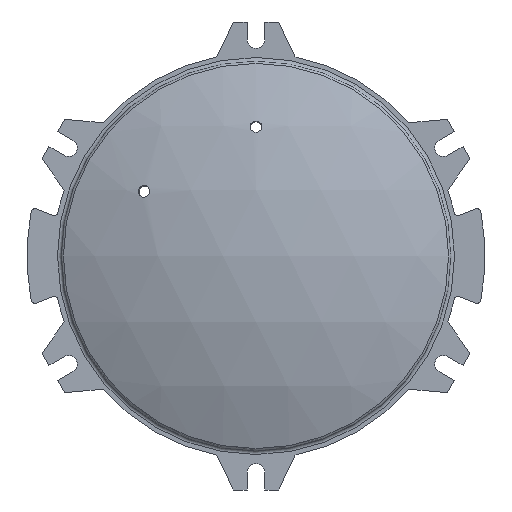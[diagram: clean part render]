
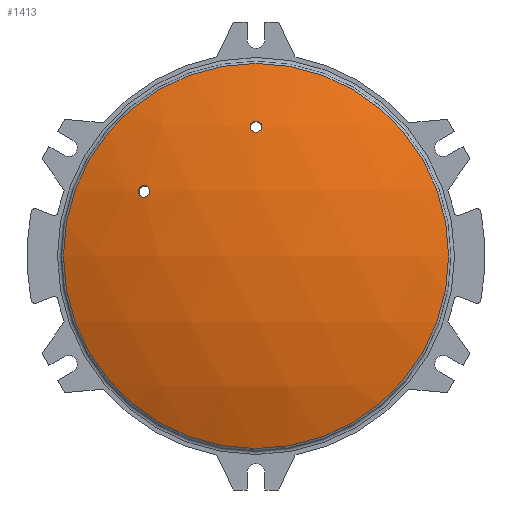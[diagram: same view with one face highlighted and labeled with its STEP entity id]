
A CAD part, left-side view. The second image highlights one B-rep face of the part: STEP entity #1413.
In plain terms, the highlighted spherical face has radius 260.04 mm.
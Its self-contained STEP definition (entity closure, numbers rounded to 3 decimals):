
#15=SPHERICAL_SURFACE('',#1551,260.04);
#354=FACE_BOUND('',#508,.T.);
#355=FACE_BOUND('',#509,.T.);
#429=FACE_OUTER_BOUND('',#507,.T.);
#507=EDGE_LOOP('',(#1308));
#508=EDGE_LOOP('',(#1309));
#509=EDGE_LOOP('',(#1310));
#515=CIRCLE('',#1425,3.);
#517=CIRCLE('',#1428,3.);
#571=CIRCLE('',#1550,98.76);
#573=VERTEX_POINT('',#1965);
#575=VERTEX_POINT('',#1970);
#708=VERTEX_POINT('',#2369);
#710=EDGE_CURVE('',#573,#573,#515,.T.);
#712=EDGE_CURVE('',#575,#575,#517,.T.);
#910=EDGE_CURVE('',#708,#708,#571,.T.);
#1308=ORIENTED_EDGE('',*,*,#910,.F.);
#1309=ORIENTED_EDGE('',*,*,#710,.T.);
#1310=ORIENTED_EDGE('',*,*,#712,.T.);
#1413=ADVANCED_FACE('',(#429,#354,#355),#15,.T.);
#1425=AXIS2_PLACEMENT_3D('',#1966,#1559,#1560);
#1428=AXIS2_PLACEMENT_3D('',#1971,#1565,#1566);
#1550=AXIS2_PLACEMENT_3D('',#2370,#1953,#1954);
#1551=AXIS2_PLACEMENT_3D('',#2371,#1955,#1956);
#1559=DIRECTION('center_axis',(0.967,-0.221,-0.128));
#1560=DIRECTION('ref_axis',(0.,0.5,-0.866));
#1565=DIRECTION('center_axis',(0.967,0.,-0.255));
#1566=DIRECTION('ref_axis',(0.,1.,0.));
#1953=DIRECTION('center_axis',(1.,0.,0.));
#1954=DIRECTION('ref_axis',(0.,0.,-1.));
#1955=DIRECTION('center_axis',(0.,0.,1.));
#1956=DIRECTION('ref_axis',(1.,0.,0.));
#1965=CARTESIAN_POINT('',(-21.377,55.943,35.763));
#1966=CARTESIAN_POINT('Origin',(-21.377,57.443,33.165));
#1970=CARTESIAN_POINT('',(-21.377,-3.,66.33));
#1971=CARTESIAN_POINT('Origin',(-21.377,0.,66.33));
#2369=CARTESIAN_POINT('',(-10.513,0.,98.76));
#2370=CARTESIAN_POINT('Origin',(-10.513,0.,0.));
#2371=CARTESIAN_POINT('Origin',(230.043,0.,0.));
